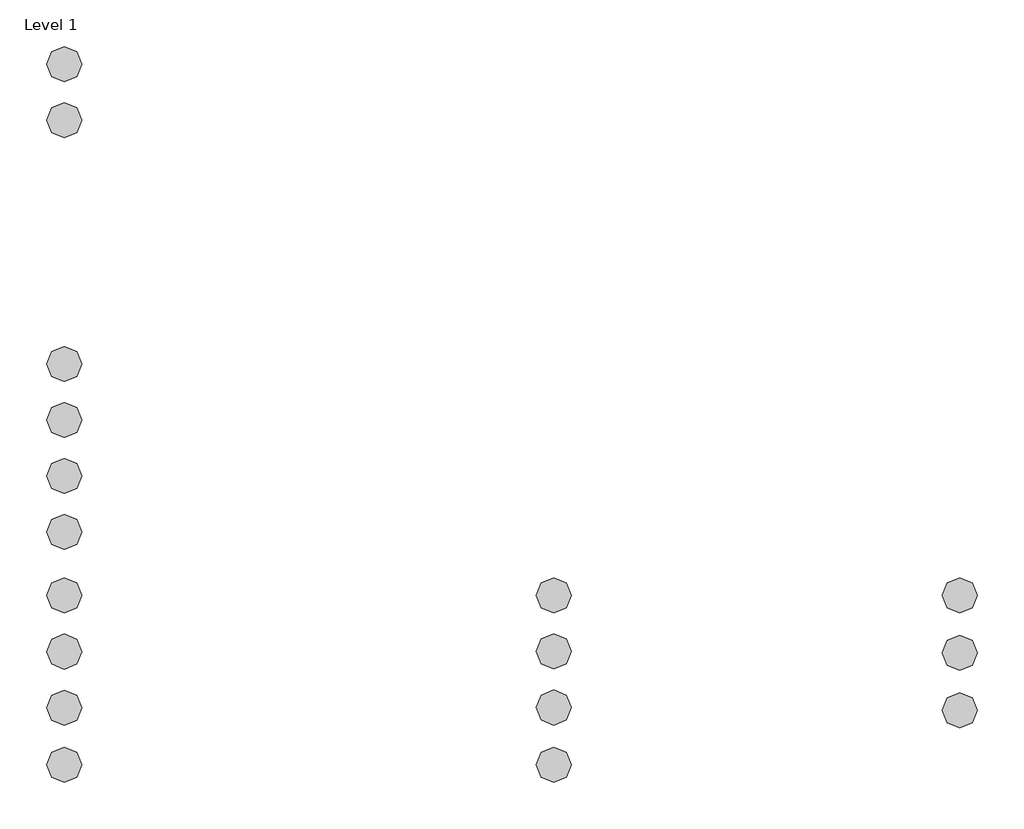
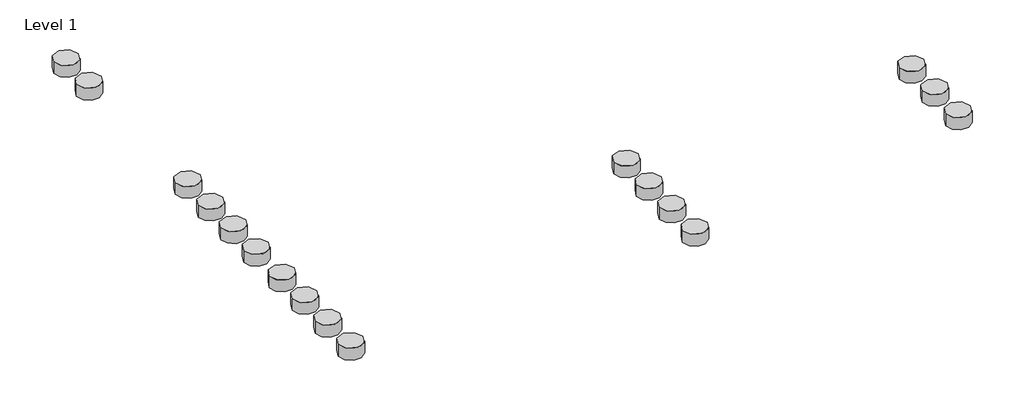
# One storey, incomplete: 17 proxies.
"""IFC4 building model written with IfcOpenShell, lengths in millimetres."""

from ifc_helpers import new_model, si_unit, origin, place, context, project, spatial, transform, mapped, element, save
from components import materialmodel_materialmodel_02e69005

model = new_model("IFC4")

# Units and contexts
model_context = context("Model", 3, world=origin())
ifc_project = project(units=[si_unit("LENGTHUNIT", "METRE", prefix="MILLI")], contexts=[model_context])

# Site, building, storey
site = spatial("IfcSite", under=ifc_project)
building = spatial("IfcBuilding", under=site)
storey = spatial("IfcBuildingStorey", under=building, Name="Level 1", Elevation=0.0)

# Proxies
placement = place(None, origin())
materialmodel_materialmodel_shape = materialmodel_materialmodel_02e69005(model_context)
element("IfcBuildingElementProxy", 1, Name="MaterialModel : MaterialModel", ObjectType="MaterialModel : MaterialModel", at=placement, inside=storey, context=model_context, shape_type="MappedRepresentation", body=[
    mapped(materialmodel_materialmodel_shape, transform((-4074.4791773, 5416.8761274, 0.0), x_axis=(1.0, 0.0, 0.0), y_axis=(0.0, 1.0, 0.0), z_axis=(0.0, 0.0, 1.0))),
])
element("IfcBuildingElementProxy", 2, Name="MaterialModel : MaterialModel", ObjectType="MaterialModel : MaterialModel", at=placement, inside=storey, context=model_context, shape_type="MappedRepresentation", body=[
    mapped(materialmodel_materialmodel_shape, transform((-2679.7334881, 4756.9808264, 0.0), x_axis=(1.0, 0.0, 0.0), y_axis=(0.0, 1.0, 0.0), z_axis=(0.0, 0.0, 1.0))),
])
element("IfcBuildingElementProxy", 3, Name="MaterialModel : MaterialModel", ObjectType="MaterialModel : MaterialModel", at=placement, inside=storey, context=model_context, shape_type="MappedRepresentation", body=[
    mapped(materialmodel_materialmodel_shape, transform((-1523.5090358, 4753.1089527, 0.0), x_axis=(1.0, 0.0, 0.0), y_axis=(0.0, 1.0, 0.0), z_axis=(0.0, 0.0, 1.0))),
])
element("IfcBuildingElementProxy", 4, Name="MaterialModel : MaterialModel", ObjectType="MaterialModel : MaterialModel", at=placement, inside=storey, context=model_context, shape_type="MappedRepresentation", body=[
    mapped(materialmodel_materialmodel_shape, transform((-1523.5090358, 4589.6289136, 0.0), x_axis=(1.0, 0.0, 0.0), y_axis=(0.0, 1.0, 0.0), z_axis=(0.0, 0.0, 1.0))),
])
element("IfcBuildingElementProxy", 5, Name="MaterialModel : MaterialModel", ObjectType="MaterialModel : MaterialModel", at=placement, inside=storey, context=model_context, shape_type="MappedRepresentation", body=[
    mapped(materialmodel_materialmodel_shape, transform((-2679.7334881, 4597.3726611, 0.0), x_axis=(1.0, 0.0, 0.0), y_axis=(0.0, 1.0, 0.0), z_axis=(0.0, 0.0, 1.0))),
])
element("IfcBuildingElementProxy", 6, Name="MaterialModel : MaterialModel", ObjectType="MaterialModel : MaterialModel", at=placement, inside=storey, context=model_context, shape_type="MappedRepresentation", body=[
    mapped(materialmodel_materialmodel_shape, transform((-4074.4791773, 6430.8642321, 0.0), x_axis=(1.0, 0.0, 0.0), y_axis=(0.0, 1.0, 0.0), z_axis=(0.0, 0.0, 1.0))),
])
element("IfcBuildingElementProxy", 7, Name="MaterialModel : MaterialModel", ObjectType="MaterialModel : MaterialModel", at=placement, inside=storey, context=model_context, shape_type="MappedRepresentation", body=[
    mapped(materialmodel_materialmodel_shape, transform((-4074.4791773, 6270.8642321, 0.0), x_axis=(1.0, 0.0, 0.0), y_axis=(0.0, 1.0, 0.0), z_axis=(0.0, 0.0, 1.0))),
])
element("IfcBuildingElementProxy", 8, Name="MaterialModel : MaterialModel", ObjectType="MaterialModel : MaterialModel", at=placement, inside=storey, context=model_context, shape_type="MappedRepresentation", body=[
    mapped(materialmodel_materialmodel_shape, transform((-4074.4791773, 5576.4842927, 0.0), x_axis=(1.0, 0.0, 0.0), y_axis=(0.0, 1.0, 0.0), z_axis=(0.0, 0.0, 1.0))),
])
element("IfcBuildingElementProxy", 9, Name="MaterialModel : MaterialModel", ObjectType="MaterialModel : MaterialModel", at=placement, inside=storey, context=model_context, shape_type="MappedRepresentation", body=[
    mapped(materialmodel_materialmodel_shape, transform((-2679.7334881, 4916.5889917, 0.0), x_axis=(1.0, 0.0, 0.0), y_axis=(0.0, 1.0, 0.0), z_axis=(0.0, 0.0, 1.0))),
])
element("IfcBuildingElementProxy", 10, Name="MaterialModel : MaterialModel", ObjectType="MaterialModel : MaterialModel", at=placement, inside=storey, context=model_context, shape_type="MappedRepresentation", body=[
    mapped(materialmodel_materialmodel_shape, transform((-4074.4791773, 5257.2679622, 0.0), x_axis=(1.0, 0.0, 0.0), y_axis=(0.0, 1.0, 0.0), z_axis=(0.0, 0.0, 1.0))),
])
element("IfcBuildingElementProxy", 11, Name="MaterialModel : MaterialModel", ObjectType="MaterialModel : MaterialModel", at=placement, inside=storey, context=model_context, shape_type="MappedRepresentation", body=[
    mapped(materialmodel_materialmodel_shape, transform((-4074.4791773, 5097.6597969, 0.0), x_axis=(1.0, 0.0, 0.0), y_axis=(0.0, 1.0, 0.0), z_axis=(0.0, 0.0, 1.0))),
])
element("IfcBuildingElementProxy", 12, Name="MaterialModel : MaterialModel", ObjectType="MaterialModel : MaterialModel", at=placement, inside=storey, context=model_context, shape_type="MappedRepresentation", body=[
    mapped(materialmodel_materialmodel_shape, transform((-2679.7334881, 4433.8926221, 0.0), x_axis=(1.0, 0.0, 0.0), y_axis=(0.0, 1.0, 0.0), z_axis=(0.0, 0.0, 1.0))),
])
element("IfcBuildingElementProxy", 13, Name="MaterialModel : MaterialModel", ObjectType="MaterialModel : MaterialModel", at=placement, inside=storey, context=model_context, shape_type="MappedRepresentation", body=[
    mapped(materialmodel_materialmodel_shape, transform((-1523.5090358, 4916.5889917, 0.0), x_axis=(1.0, 0.0, 0.0), y_axis=(0.0, 1.0, 0.0), z_axis=(0.0, 0.0, 1.0))),
])
element("IfcBuildingElementProxy", 14, Name="MaterialModel : MaterialModel", ObjectType="MaterialModel : MaterialModel", at=placement, inside=storey, context=model_context, shape_type="MappedRepresentation", body=[
    mapped(materialmodel_materialmodel_shape, transform((-4074.4791773, 4433.8926221, 0.0), x_axis=(1.0, 0.0, 0.0), y_axis=(0.0, 1.0, 0.0), z_axis=(0.0, 0.0, 1.0))),
])
element("IfcBuildingElementProxy", 15, Name="MaterialModel : MaterialModel", ObjectType="MaterialModel : MaterialModel", at=placement, inside=storey, context=model_context, shape_type="MappedRepresentation", body=[
    mapped(materialmodel_materialmodel_shape, transform((-4074.4791773, 4916.5889917, 0.0), x_axis=(1.0, 0.0, 0.0), y_axis=(0.0, 1.0, 0.0), z_axis=(0.0, 0.0, 1.0))),
])
element("IfcBuildingElementProxy", 16, Name="MaterialModel : MaterialModel", ObjectType="MaterialModel : MaterialModel", at=placement, inside=storey, context=model_context, shape_type="MappedRepresentation", body=[
    mapped(materialmodel_materialmodel_shape, transform((-4074.4791773, 4756.5889917, 0.0), x_axis=(1.0, 0.0, 0.0), y_axis=(0.0, 1.0, 0.0), z_axis=(0.0, 0.0, 1.0))),
])
element("IfcBuildingElementProxy", 17, Name="MaterialModel : MaterialModel", ObjectType="MaterialModel : MaterialModel", at=placement, inside=storey, context=model_context, shape_type="MappedRepresentation", body=[
    mapped(materialmodel_materialmodel_shape, transform((-4074.4791773, 4596.5889917, 0.0), x_axis=(1.0, 0.0, 0.0), y_axis=(0.0, 1.0, 0.0), z_axis=(0.0, 0.0, 1.0))),
])

save(model, "model.ifc")
